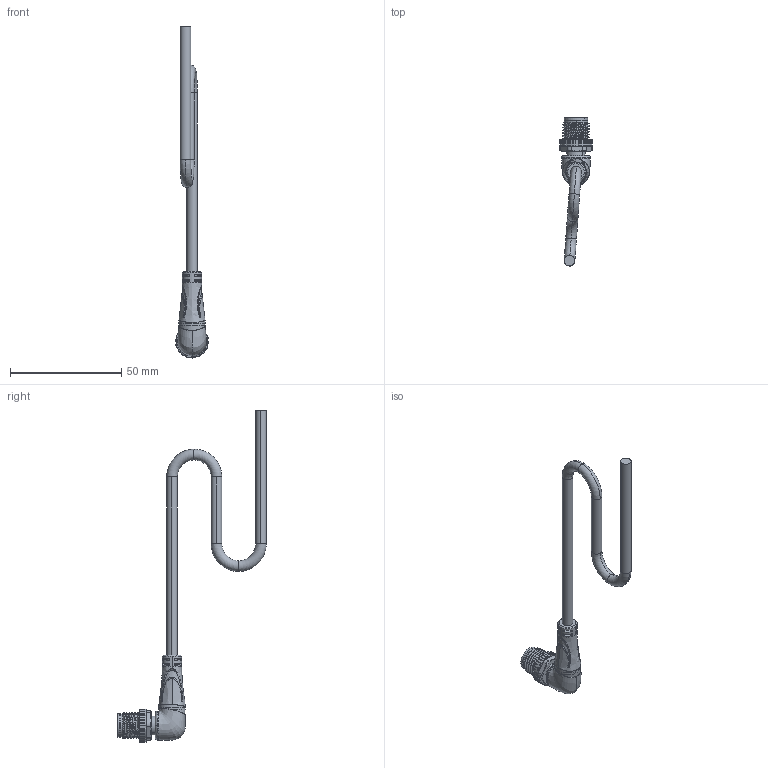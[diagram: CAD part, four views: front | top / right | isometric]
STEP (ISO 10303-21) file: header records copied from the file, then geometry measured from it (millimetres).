
FILE_DESCRIPTION (( 'STEP AP214' ), '1' );
FILE_NAME ('M12俔芛4P鼠傷.STEP', '2024-12-20T10:12:49', ( 'Windows User' ), ( 'P R C' ), 'SwSTEP 2.0', 'SolidWorks 2023', '' );
FILE_SCHEMA (( 'AUTOMOTIVE_DESIGN' ));
Length unit declared in the file: millimetre
Products named in the file (6): 导线_φ4.8; M12弯头4P公端; M12-90°包胶; SD1705290-M12公端插针-A1; SD2008751-M12-4P公端插座-A0; SD1100808-M12滚花螺栓（外螺纹对边13）-A0
Assembly tree (8 placements, depth 2):
  M12弯头4P公端
    导线_φ4.8
    M12-90°包胶
    SD1100808-M12滚花螺栓（外螺纹对边13）-A0
    SD1705290-M12公端插针-A1  x4
    SD2008751-M12-4P公端插座-A0
Bounding box: 14.8 x 66.64 x 148.89 mm (x, y, z)
Volume: 9251.3 mm3; surface area: 8653.3 mm2
Topology: 4 solids, 12 shells, 1279 faces, 3430 edges, 2185 vertices
Faces by surface type: plane 541, cylinder 428, cone 129, bspline 96, torus 73, sphere 12
Entity records: 38870 total; most frequent: CARTESIAN_POINT 20858, ORIENTED_EDGE 3950, DIRECTION 3561, EDGE_CURVE 1985, AXIS2_PLACEMENT_3D 1373, VERTEX_POINT 1273, LINE 815, VECTOR 815
